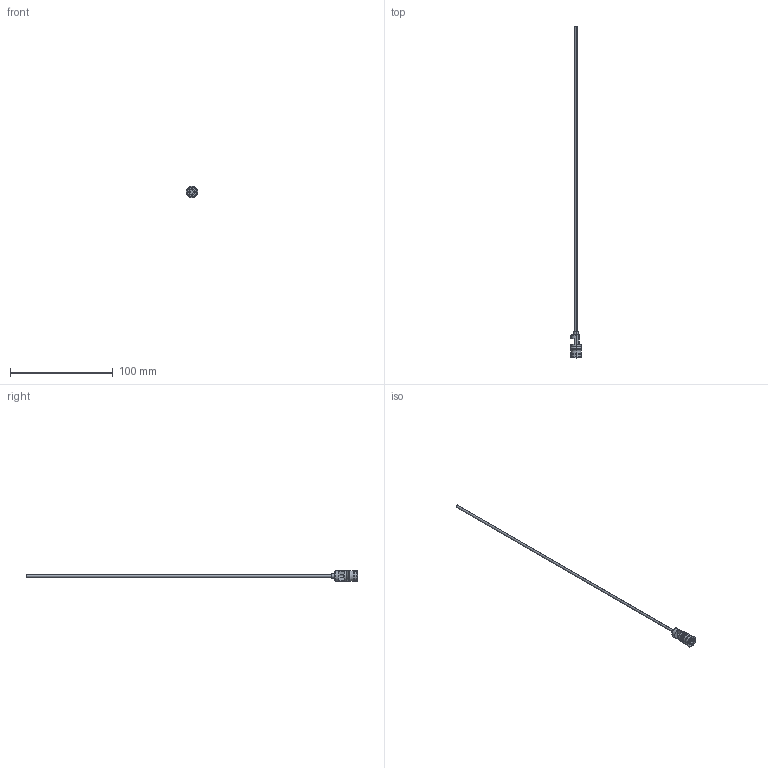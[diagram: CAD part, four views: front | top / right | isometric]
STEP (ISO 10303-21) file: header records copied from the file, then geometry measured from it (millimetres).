
FILE_DESCRIPTION (( 'STEP AP203' ), '1' );
FILE_NAME ('RF-10Fx300-2,5.STEP', '2015-11-19T16:03:46', ( 'Balzi' ), ( '' ), 'SwSTEP 2.0', 'SolidWorks 2015', '' );
FILE_SCHEMA (( 'CONFIG_CONTROL_DESIGN' ));
Length unit declared in the file: millimetre
Products named in the file (1): RF-10Fx300-2,5
Bounding box: 11.3 x 322.5 x 11.3 mm (x, y, z)
Volume: 1798.7 mm3; surface area: 5522.8 mm2
Topology: 1 solids, 1 shells, 71 faces, 164 edges, 102 vertices
Faces by surface type: plane 26, cylinder 25, cone 12, torus 8
Entity records: 2114 total; most frequent: DIRECTION 385, CARTESIAN_POINT 357, ORIENTED_EDGE 328, EDGE_CURVE 164, AXIS2_PLACEMENT_3D 154, VERTEX_POINT 102, CIRCLE 82, EDGE_LOOP 80
